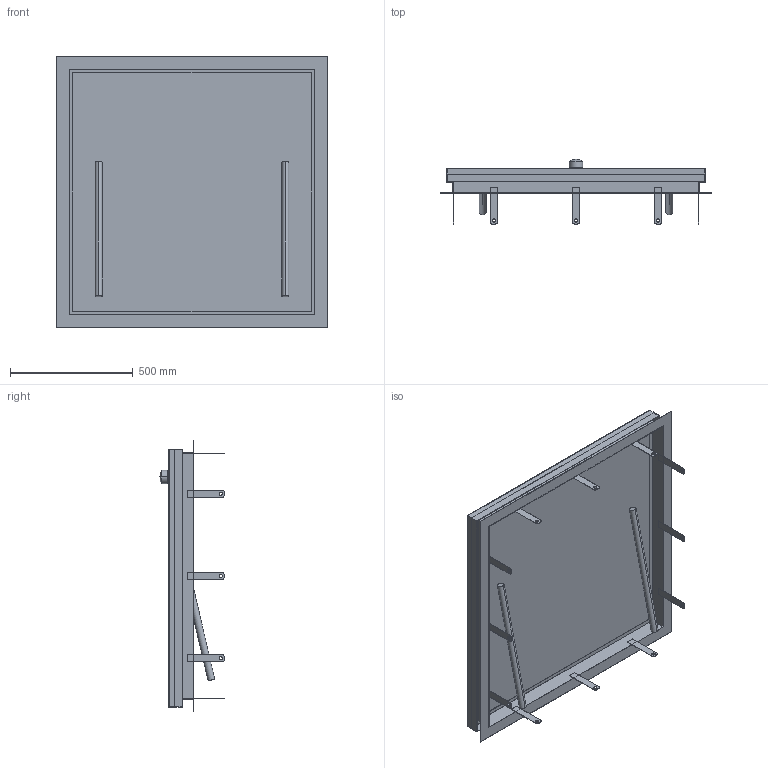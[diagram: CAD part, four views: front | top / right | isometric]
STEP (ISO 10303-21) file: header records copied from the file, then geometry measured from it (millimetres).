
FILE_DESCRIPTION((''),'2;1');
FILE_NAME('52096099','2023-06-20T13:53:48',('wep'),('HUBER SE'),'CREO PARAMETRIC BY PTC INC, 2022162','CREO PARAMETRIC BY PTC INC, 2022162','');
FILE_SCHEMA(('AUTOMOTIVE_DESIGN { 1 0 10303 214 1 1 1 1 }'));
Length unit declared in the file: millimetre
Products named in the file (1): 52096099
Bounding box: 1100 x 264 x 1100 mm (x, y, z)
Volume: 5934452.4 mm3; surface area: 6113224.1 mm2
Topology: 4 solids, 5 shells, 148 faces, 376 edges, 241 vertices
Faces by surface type: plane 102, cylinder 44, sphere 2
Entity records: 5037 total; most frequent: CARTESIAN_POINT 765, DIRECTION 760, ORIENTED_EDGE 748, EDGE_CURVE 374, VECTOR 284, LINE 284, VERTEX_POINT 241, AXIS2_PLACEMENT_3D 238
